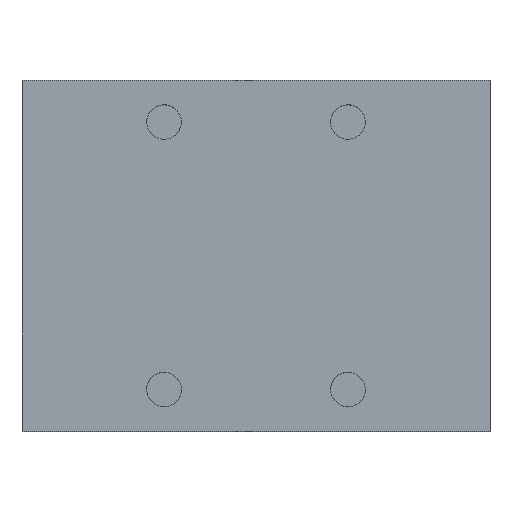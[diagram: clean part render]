
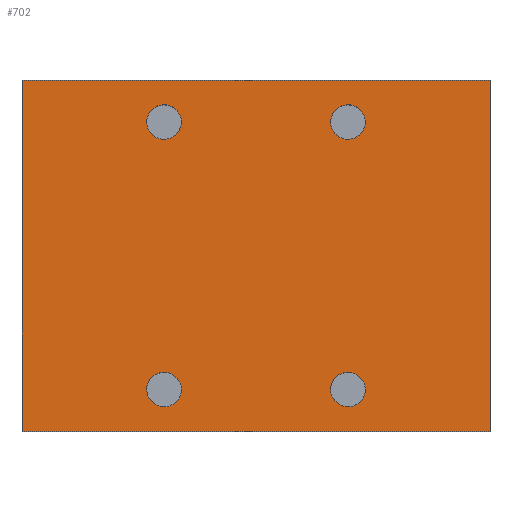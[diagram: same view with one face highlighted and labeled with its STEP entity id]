
A CAD part, top view. The second image highlights one B-rep face of the part: STEP entity #702.
In plain terms, the highlighted planar face has unit normal (0, 0, 1).
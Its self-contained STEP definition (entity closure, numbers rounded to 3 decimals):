
#87=CARTESIAN_POINT('Vertex',(-56.,21.,16.)) ;
#90=CARTESIAN_POINT('Line Origine',(-28.,21.,16.)) ;
#94=CARTESIAN_POINT('Vertex',(0.,21.,16.)) ;
#139=CARTESIAN_POINT('Line Origine',(-56.,0.,16.)) ;
#143=CARTESIAN_POINT('Vertex',(-56.,-21.,16.)) ;
#368=CARTESIAN_POINT('Axis2P3D Location',(-39.,-16.,16.)) ;
#372=CARTESIAN_POINT('Vertex',(-37.186,-16.991,16.)) ;
#374=CARTESIAN_POINT('Vertex',(-40.814,-15.009,16.)) ;
#394=CARTESIAN_POINT('Axis2P3D Location',(-39.,-16.,16.)) ;
#411=CARTESIAN_POINT('Axis2P3D Location',(-17.,-16.,16.)) ;
#415=CARTESIAN_POINT('Vertex',(-15.186,-16.991,16.)) ;
#417=CARTESIAN_POINT('Vertex',(-18.814,-15.009,16.)) ;
#437=CARTESIAN_POINT('Axis2P3D Location',(-17.,-16.,16.)) ;
#454=CARTESIAN_POINT('Axis2P3D Location',(-39.,16.,16.)) ;
#458=CARTESIAN_POINT('Vertex',(-37.186,15.009,16.)) ;
#460=CARTESIAN_POINT('Vertex',(-40.814,16.991,16.)) ;
#480=CARTESIAN_POINT('Axis2P3D Location',(-39.,16.,16.)) ;
#497=CARTESIAN_POINT('Axis2P3D Location',(-17.,16.,16.)) ;
#501=CARTESIAN_POINT('Vertex',(-15.186,15.009,16.)) ;
#503=CARTESIAN_POINT('Vertex',(-18.814,16.991,16.)) ;
#523=CARTESIAN_POINT('Axis2P3D Location',(-17.,16.,16.)) ;
#635=CARTESIAN_POINT('Vertex',(0.,-21.,16.)) ;
#638=CARTESIAN_POINT('Line Origine',(-28.,-21.,16.)) ;
#655=CARTESIAN_POINT('Line Origine',(0.,0.,16.)) ;
#675=CARTESIAN_POINT('Axis2P3D Location',(0.,-21.,16.)) ;
#91=DIRECTION('Vector Direction',(-1.,0.,0.)) ;
#140=DIRECTION('Vector Direction',(0.,1.,0.)) ;
#369=DIRECTION('Axis2P3D Direction',(0.,0.,-1.)) ;
#395=DIRECTION('Axis2P3D Direction',(0.,0.,-1.)) ;
#412=DIRECTION('Axis2P3D Direction',(0.,0.,-1.)) ;
#438=DIRECTION('Axis2P3D Direction',(0.,0.,-1.)) ;
#455=DIRECTION('Axis2P3D Direction',(0.,0.,-1.)) ;
#481=DIRECTION('Axis2P3D Direction',(0.,0.,-1.)) ;
#498=DIRECTION('Axis2P3D Direction',(0.,0.,-1.)) ;
#524=DIRECTION('Axis2P3D Direction',(0.,0.,-1.)) ;
#639=DIRECTION('Vector Direction',(-1.,0.,0.)) ;
#656=DIRECTION('Vector Direction',(0.,1.,0.)) ;
#676=DIRECTION('Axis2P3D Direction',(0.,-0.,1.)) ;
#677=DIRECTION('Axis2P3D XDirection',(0.,1.,0.)) ;
#370=AXIS2_PLACEMENT_3D('Circle Axis2P3D',#368,#369,$) ;
#396=AXIS2_PLACEMENT_3D('Circle Axis2P3D',#394,#395,$) ;
#413=AXIS2_PLACEMENT_3D('Circle Axis2P3D',#411,#412,$) ;
#439=AXIS2_PLACEMENT_3D('Circle Axis2P3D',#437,#438,$) ;
#456=AXIS2_PLACEMENT_3D('Circle Axis2P3D',#454,#455,$) ;
#482=AXIS2_PLACEMENT_3D('Circle Axis2P3D',#480,#481,$) ;
#499=AXIS2_PLACEMENT_3D('Circle Axis2P3D',#497,#498,$) ;
#525=AXIS2_PLACEMENT_3D('Circle Axis2P3D',#523,#524,$) ;
#678=AXIS2_PLACEMENT_3D('Plane Axis2P3D',#675,#676,#677) ;
#681=ORIENTED_EDGE('',*,*,#145,.T.) ;
#682=ORIENTED_EDGE('',*,*,#642,.F.) ;
#683=ORIENTED_EDGE('',*,*,#659,.F.) ;
#684=ORIENTED_EDGE('',*,*,#96,.T.) ;
#687=ORIENTED_EDGE('',*,*,#527,.F.) ;
#688=ORIENTED_EDGE('',*,*,#505,.F.) ;
#691=ORIENTED_EDGE('',*,*,#484,.F.) ;
#692=ORIENTED_EDGE('',*,*,#462,.F.) ;
#695=ORIENTED_EDGE('',*,*,#441,.F.) ;
#696=ORIENTED_EDGE('',*,*,#419,.F.) ;
#699=ORIENTED_EDGE('',*,*,#398,.F.) ;
#700=ORIENTED_EDGE('',*,*,#376,.F.) ;
#689=FACE_BOUND('',#686,.T.) ;
#693=FACE_BOUND('',#690,.T.) ;
#697=FACE_BOUND('',#694,.T.) ;
#701=FACE_BOUND('',#698,.T.) ;
#92=VECTOR('Line Direction',#91,1.) ;
#141=VECTOR('Line Direction',#140,1.) ;
#640=VECTOR('Line Direction',#639,1.) ;
#657=VECTOR('Line Direction',#656,1.) ;
#702=ADVANCED_FACE('PartBody',(#685,#689,#693,#697,#701),#679,.T.) ;
#371=CIRCLE('generated circle',#370,2.067) ;
#397=CIRCLE('generated circle',#396,2.067) ;
#414=CIRCLE('generated circle',#413,2.067) ;
#440=CIRCLE('generated circle',#439,2.067) ;
#457=CIRCLE('generated circle',#456,2.067) ;
#483=CIRCLE('generated circle',#482,2.067) ;
#500=CIRCLE('generated circle',#499,2.067) ;
#526=CIRCLE('generated circle',#525,2.067) ;
#96=EDGE_CURVE('',#95,#88,#93,.T.) ;
#145=EDGE_CURVE('',#88,#144,#142,.F.) ;
#376=EDGE_CURVE('',#373,#375,#371,.F.) ;
#398=EDGE_CURVE('',#375,#373,#397,.F.) ;
#419=EDGE_CURVE('',#416,#418,#414,.F.) ;
#441=EDGE_CURVE('',#418,#416,#440,.F.) ;
#462=EDGE_CURVE('',#459,#461,#457,.F.) ;
#484=EDGE_CURVE('',#461,#459,#483,.F.) ;
#505=EDGE_CURVE('',#502,#504,#500,.F.) ;
#527=EDGE_CURVE('',#504,#502,#526,.F.) ;
#642=EDGE_CURVE('',#636,#144,#641,.T.) ;
#659=EDGE_CURVE('',#95,#636,#658,.F.) ;
#680=EDGE_LOOP('',(#681,#682,#683,#684)) ;
#686=EDGE_LOOP('',(#687,#688)) ;
#690=EDGE_LOOP('',(#691,#692)) ;
#694=EDGE_LOOP('',(#695,#696)) ;
#698=EDGE_LOOP('',(#699,#700)) ;
#685=FACE_OUTER_BOUND('',#680,.T.) ;
#93=LINE('Line',#90,#92) ;
#142=LINE('Line',#139,#141) ;
#641=LINE('Line',#638,#640) ;
#658=LINE('Line',#655,#657) ;
#679=PLANE('',#678) ;
#88=VERTEX_POINT('',#87) ;
#95=VERTEX_POINT('',#94) ;
#144=VERTEX_POINT('',#143) ;
#373=VERTEX_POINT('',#372) ;
#375=VERTEX_POINT('',#374) ;
#416=VERTEX_POINT('',#415) ;
#418=VERTEX_POINT('',#417) ;
#459=VERTEX_POINT('',#458) ;
#461=VERTEX_POINT('',#460) ;
#502=VERTEX_POINT('',#501) ;
#504=VERTEX_POINT('',#503) ;
#636=VERTEX_POINT('',#635) ;
